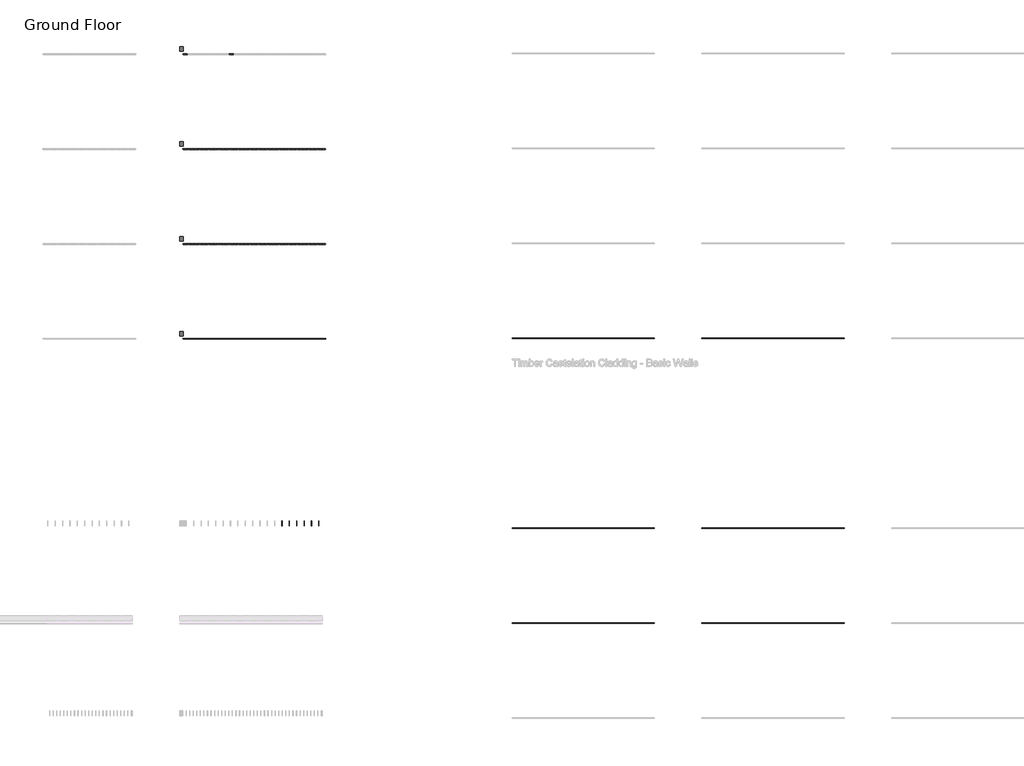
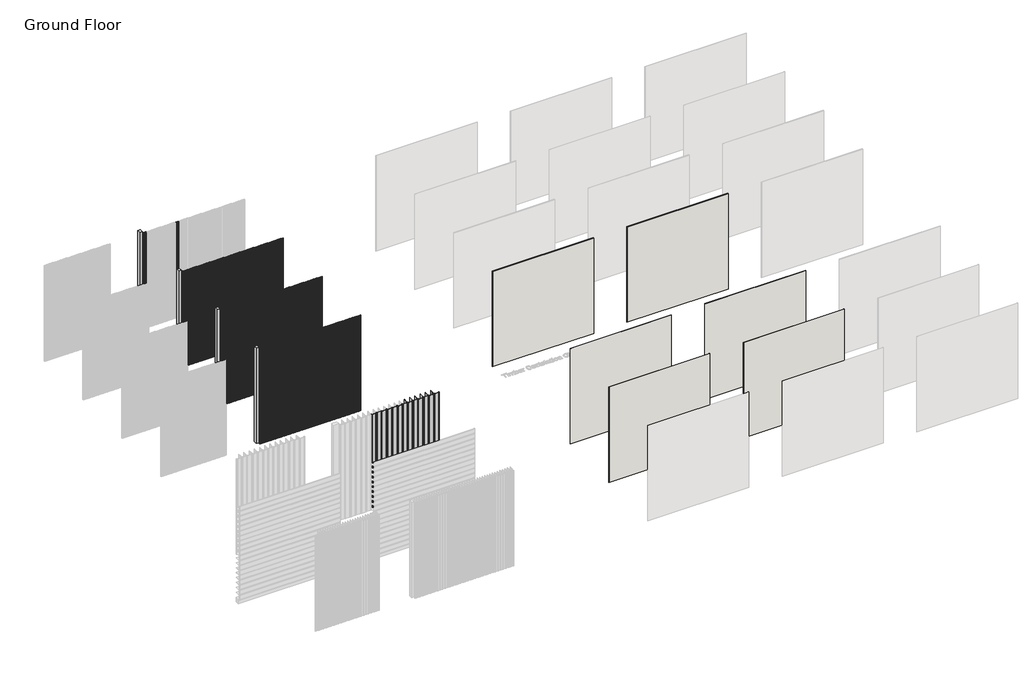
# One storey, part 44 of 350: 126 members, 10 plates, 6 walls.
"""IFC4 building model written with IfcOpenShell, lengths in millimetres."""

from ifc_helpers import new_model, si_unit, origin, origin_with_axes, place, context, project, spatial, polyline, outline, extrude, transform, mapped, element, save
from components import rectangular_mullion_a9feb706, rectangular_mullion_4aa68164, rectangular_mullion_14973cdb, rectangular_mullion_624eee80, rectangular_mullion_eca9a012, empty_system_panel_empty_27b459cb, empty_system_panel_empty_cbd4e42b

model = new_model("IFC4")

# Units and contexts
model_context = context("Model", 3, world=origin())
ifc_project = project(units=[si_unit("LENGTHUNIT", "METRE", prefix="MILLI")], contexts=[model_context])

# Site, building, storey
site = spatial("IfcSite", under=ifc_project)
building = spatial("IfcBuilding", under=site)
storey = spatial("IfcBuildingStorey", under=building, Name="Ground Floor", Elevation=0.0)

# Members
placement = place(None, origin())
rectangular_mullion_shape = rectangular_mullion_a9feb706(model_context)
element("IfcMember", 1, ObjectType="Rectangular Mullion : Cladding_Aluminium_Modinex_AluSelekta_Channel_155_WhiteOak", at=placement, inside=storey, context=model_context, shape_type="MappedRepresentation", body=[
    mapped(rectangular_mullion_shape, transform((50001.4361642, 18968.2978302, 0.0), x_axis=(1.0, 0.0, 0.0), y_axis=(0.0, -1.0, 0.0), z_axis=(0.0, 0.0, -1.0))),
])
element("IfcMember", 2, ObjectType="Rectangular Mullion : Cladding_Aluminium_Modinex_AluSelekta_Channel_155_WhiteOak", at=placement, inside=storey, context=model_context, shape_type="MappedRepresentation", body=[
    mapped(rectangular_mullion_shape, transform((50156.4361642, 18968.2978302, 0.0), x_axis=(1.0, 0.0, 0.0), y_axis=(0.0, -1.0, 0.0), z_axis=(0.0, 0.0, -1.0))),
])
element("IfcMember", 3, ObjectType="Rectangular Mullion : Cladding_Aluminium_Modinex_AluSelekta_Channel_155_WhiteOak", at=placement, inside=storey, context=model_context, shape_type="MappedRepresentation", body=[
    mapped(rectangular_mullion_shape, transform((50311.4361642, 18968.2978302, 0.0), x_axis=(1.0, 0.0, 0.0), y_axis=(0.0, -1.0, 0.0), z_axis=(0.0, 0.0, -1.0))),
])
element("IfcMember", 4, ObjectType="Rectangular Mullion : Cladding_Aluminium_Modinex_AluSelekta_Channel_155_WhiteOak", at=placement, inside=storey, context=model_context, shape_type="MappedRepresentation", body=[
    mapped(rectangular_mullion_shape, transform((50466.4361642, 18968.2978302, 0.0), x_axis=(1.0, 0.0, 0.0), y_axis=(0.0, -1.0, 0.0), z_axis=(0.0, 0.0, -1.0))),
])
element("IfcMember", 5, ObjectType="Rectangular Mullion : Cladding_Aluminium_Modinex_AluSelekta_Channel_155_WhiteOak", at=placement, inside=storey, context=model_context, shape_type="MappedRepresentation", body=[
    mapped(rectangular_mullion_shape, transform((50621.4361642, 18968.2978302, 0.0), x_axis=(1.0, 0.0, 0.0), y_axis=(0.0, -1.0, 0.0), z_axis=(0.0, 0.0, -1.0))),
])
element("IfcMember", 6, ObjectType="Rectangular Mullion : Cladding_Aluminium_Modinex_AluSelekta_Channel_155_WhiteOak", at=placement, inside=storey, context=model_context, shape_type="MappedRepresentation", body=[
    mapped(rectangular_mullion_shape, transform((50776.4361642, 18968.2978302, 0.0), x_axis=(1.0, 0.0, 0.0), y_axis=(0.0, -1.0, 0.0), z_axis=(0.0, 0.0, -1.0))),
])
element("IfcMember", 7, ObjectType="Rectangular Mullion : Cladding_Aluminium_Modinex_AluSelekta_Channel_155_WhiteOak", at=placement, inside=storey, context=model_context, shape_type="MappedRepresentation", body=[
    mapped(rectangular_mullion_shape, transform((50931.4361642, 18968.2978302, 0.0), x_axis=(1.0, 0.0, 0.0), y_axis=(0.0, -1.0, 0.0), z_axis=(0.0, 0.0, -1.0))),
])
element("IfcMember", 8, ObjectType="Rectangular Mullion : Cladding_Aluminium_Modinex_AluSelekta_Channel_155_WhiteOak", at=placement, inside=storey, context=model_context, shape_type="MappedRepresentation", body=[
    mapped(rectangular_mullion_shape, transform((51086.4361642, 18968.2978302, 0.0), x_axis=(1.0, 0.0, 0.0), y_axis=(0.0, -1.0, 0.0), z_axis=(0.0, 0.0, -1.0))),
])
element("IfcMember", 9, ObjectType="Rectangular Mullion : Cladding_Aluminium_Modinex_AluSelekta_Channel_155_WhiteOak", at=placement, inside=storey, context=model_context, shape_type="MappedRepresentation", body=[
    mapped(rectangular_mullion_shape, transform((51241.4361642, 18968.2978302, 0.0), x_axis=(1.0, 0.0, 0.0), y_axis=(0.0, -1.0, 0.0), z_axis=(0.0, 0.0, -1.0))),
])
element("IfcMember", 10, ObjectType="Rectangular Mullion : Cladding_Aluminium_Modinex_AluSelekta_Channel_155_WhiteOak", at=placement, inside=storey, context=model_context, shape_type="MappedRepresentation", body=[
    mapped(rectangular_mullion_shape, transform((51396.4361642, 18968.2978302, 0.0), x_axis=(1.0, 0.0, 0.0), y_axis=(0.0, -1.0, 0.0), z_axis=(0.0, 0.0, -1.0))),
])
element("IfcMember", 11, ObjectType="Rectangular Mullion : Cladding_Aluminium_Modinex_AluSelekta_Channel_155_WhiteOak", at=placement, inside=storey, context=model_context, shape_type="MappedRepresentation", body=[
    mapped(rectangular_mullion_shape, transform((51551.4361642, 18968.2978302, 0.0), x_axis=(1.0, 0.0, 0.0), y_axis=(0.0, -1.0, 0.0), z_axis=(0.0, 0.0, -1.0))),
])
element("IfcMember", 12, ObjectType="Rectangular Mullion : Cladding_Aluminium_Modinex_AluSelekta_Channel_155_WhiteOak", at=placement, inside=storey, context=model_context, shape_type="MappedRepresentation", body=[
    mapped(rectangular_mullion_shape, transform((51706.4361642, 18968.2978302, 0.0), x_axis=(1.0, 0.0, 0.0), y_axis=(0.0, -1.0, 0.0), z_axis=(0.0, 0.0, -1.0))),
])
element("IfcMember", 13, ObjectType="Rectangular Mullion : Cladding_Aluminium_Modinex_AluSelekta_Channel_155_WhiteOak", at=placement, inside=storey, context=model_context, shape_type="MappedRepresentation", body=[
    mapped(rectangular_mullion_shape, transform((51861.4361642, 18968.2978302, 0.0), x_axis=(1.0, 0.0, 0.0), y_axis=(0.0, -1.0, 0.0), z_axis=(0.0, 0.0, -1.0))),
])
rectangular_mullion_2_shape = rectangular_mullion_4aa68164(model_context)
element("IfcMember", 14, ObjectType="Rectangular Mullion : Cladding_Timber_Modinex_Castelation_81x12_WesternRedCedar", at=placement, inside=storey, context=model_context, shape_type="MappedRepresentation", body=[
    mapped(rectangular_mullion_2_shape, transform((50536.4361642, 22968.2978302, 0.0), x_axis=(1.0, 0.0, 0.0), y_axis=(0.0, -1.0, 0.0), z_axis=(0.0, 0.0, -1.0))),
])
element("IfcMember", 15, ObjectType="Rectangular Mullion : Cladding_Timber_Modinex_Castelation_81x12_WesternRedCedar", at=placement, inside=storey, context=model_context, shape_type="MappedRepresentation", body=[
    mapped(rectangular_mullion_2_shape, transform((50617.4361642, 22968.2978302, 0.0), x_axis=(1.0, 0.0, 0.0), y_axis=(0.0, -1.0, 0.0), z_axis=(0.0, 0.0, -1.0))),
])
element("IfcMember", 16, ObjectType="Rectangular Mullion : Cladding_Timber_Modinex_Castelation_81x12_WesternRedCedar", at=placement, inside=storey, context=model_context, shape_type="MappedRepresentation", body=[
    mapped(rectangular_mullion_2_shape, transform((50698.4361642, 22968.2978302, 0.0), x_axis=(1.0, 0.0, 0.0), y_axis=(0.0, -1.0, 0.0), z_axis=(0.0, 0.0, -1.0))),
])
element("IfcMember", 17, ObjectType="Rectangular Mullion : Cladding_Timber_Modinex_Castelation_81x12_WesternRedCedar", at=placement, inside=storey, context=model_context, shape_type="MappedRepresentation", body=[
    mapped(rectangular_mullion_2_shape, transform((50779.4361642, 22968.2978302, 0.0), x_axis=(1.0, 0.0, 0.0), y_axis=(0.0, -1.0, 0.0), z_axis=(0.0, 0.0, -1.0))),
])
element("IfcMember", 18, ObjectType="Rectangular Mullion : Cladding_Timber_Modinex_Castelation_81x12_WesternRedCedar", at=placement, inside=storey, context=model_context, shape_type="MappedRepresentation", body=[
    mapped(rectangular_mullion_2_shape, transform((50860.4361642, 22968.2978302, 0.0), x_axis=(1.0, 0.0, 0.0), y_axis=(0.0, -1.0, 0.0), z_axis=(0.0, 0.0, -1.0))),
])
element("IfcMember", 19, ObjectType="Rectangular Mullion : Cladding_Timber_Modinex_Castelation_81x12_WesternRedCedar", at=placement, inside=storey, context=model_context, shape_type="MappedRepresentation", body=[
    mapped(rectangular_mullion_2_shape, transform((50941.4361642, 22968.2978302, 0.0), x_axis=(1.0, 0.0, 0.0), y_axis=(0.0, -1.0, 0.0), z_axis=(0.0, 0.0, -1.0))),
])
element("IfcMember", 20, ObjectType="Rectangular Mullion : Cladding_Timber_Modinex_Castelation_81x12_WesternRedCedar", at=placement, inside=storey, context=model_context, shape_type="MappedRepresentation", body=[
    mapped(rectangular_mullion_2_shape, transform((51022.4361642, 22968.2978302, 0.0), x_axis=(1.0, 0.0, 0.0), y_axis=(0.0, -1.0, 0.0), z_axis=(0.0, 0.0, -1.0))),
])
element("IfcMember", 21, ObjectType="Rectangular Mullion : Cladding_Timber_Modinex_Castelation_81x12_WesternRedCedar", at=placement, inside=storey, context=model_context, shape_type="MappedRepresentation", body=[
    mapped(rectangular_mullion_2_shape, transform((51103.4361642, 22968.2978302, 0.0), x_axis=(1.0, 0.0, 0.0), y_axis=(0.0, -1.0, 0.0), z_axis=(0.0, 0.0, -1.0))),
])
element("IfcMember", 22, ObjectType="Rectangular Mullion : Cladding_Timber_Modinex_Castelation_81x12_WesternRedCedar", at=placement, inside=storey, context=model_context, shape_type="MappedRepresentation", body=[
    mapped(rectangular_mullion_2_shape, transform((51184.4361642, 22968.2978302, 0.0), x_axis=(1.0, 0.0, 0.0), y_axis=(0.0, -1.0, 0.0), z_axis=(0.0, 0.0, -1.0))),
])
element("IfcMember", 23, ObjectType="Rectangular Mullion : Cladding_Timber_Modinex_Castelation_81x12_WesternRedCedar", at=placement, inside=storey, context=model_context, shape_type="MappedRepresentation", body=[
    mapped(rectangular_mullion_2_shape, transform((51265.4361642, 22968.2978302, 0.0), x_axis=(1.0, 0.0, 0.0), y_axis=(0.0, -1.0, 0.0), z_axis=(0.0, 0.0, -1.0))),
])
element("IfcMember", 24, ObjectType="Rectangular Mullion : Cladding_Timber_Modinex_Castelation_81x12_WesternRedCedar", at=placement, inside=storey, context=model_context, shape_type="MappedRepresentation", body=[
    mapped(rectangular_mullion_2_shape, transform((51346.4361642, 22968.2978302, 0.0), x_axis=(1.0, 0.0, 0.0), y_axis=(0.0, -1.0, 0.0), z_axis=(0.0, 0.0, -1.0))),
])
element("IfcMember", 25, ObjectType="Rectangular Mullion : Cladding_Timber_Modinex_Castelation_81x12_WesternRedCedar", at=placement, inside=storey, context=model_context, shape_type="MappedRepresentation", body=[
    mapped(rectangular_mullion_2_shape, transform((51427.4361642, 22968.2978302, 0.0), x_axis=(1.0, 0.0, 0.0), y_axis=(0.0, -1.0, 0.0), z_axis=(0.0, 0.0, -1.0))),
])
element("IfcMember", 26, ObjectType="Rectangular Mullion : Cladding_Timber_Modinex_Castelation_81x12_WesternRedCedar", at=placement, inside=storey, context=model_context, shape_type="MappedRepresentation", body=[
    mapped(rectangular_mullion_2_shape, transform((51508.4361642, 22968.2978302, 0.0), x_axis=(1.0, 0.0, 0.0), y_axis=(0.0, -1.0, 0.0), z_axis=(0.0, 0.0, -1.0))),
])
element("IfcMember", 27, ObjectType="Rectangular Mullion : Cladding_Timber_Modinex_Castelation_81x12_WesternRedCedar", at=placement, inside=storey, context=model_context, shape_type="MappedRepresentation", body=[
    mapped(rectangular_mullion_2_shape, transform((51589.4361642, 22968.2978302, 0.0), x_axis=(1.0, 0.0, 0.0), y_axis=(0.0, -1.0, 0.0), z_axis=(0.0, 0.0, -1.0))),
])
element("IfcMember", 28, ObjectType="Rectangular Mullion : Cladding_Timber_Modinex_Castelation_81x12_WesternRedCedar", at=placement, inside=storey, context=model_context, shape_type="MappedRepresentation", body=[
    mapped(rectangular_mullion_2_shape, transform((51670.4361642, 22968.2978302, 0.0), x_axis=(1.0, 0.0, 0.0), y_axis=(0.0, -1.0, 0.0), z_axis=(0.0, 0.0, -1.0))),
])
element("IfcMember", 29, ObjectType="Rectangular Mullion : Cladding_Timber_Modinex_Castelation_81x12_WesternRedCedar", at=placement, inside=storey, context=model_context, shape_type="MappedRepresentation", body=[
    mapped(rectangular_mullion_2_shape, transform((51751.4361642, 22968.2978302, 0.0), x_axis=(1.0, 0.0, 0.0), y_axis=(0.0, -1.0, 0.0), z_axis=(0.0, 0.0, -1.0))),
])
element("IfcMember", 30, ObjectType="Rectangular Mullion : Cladding_Timber_Modinex_Castelation_81x12_WesternRedCedar", at=placement, inside=storey, context=model_context, shape_type="MappedRepresentation", body=[
    mapped(rectangular_mullion_2_shape, transform((51832.4361642, 22968.2978302, 0.0), x_axis=(1.0, 0.0, 0.0), y_axis=(0.0, -1.0, 0.0), z_axis=(0.0, 0.0, -1.0))),
])
element("IfcMember", 31, ObjectType="Rectangular Mullion : Cladding_Timber_Modinex_Castelation_81x12_WesternRedCedar", at=placement, inside=storey, context=model_context, shape_type="MappedRepresentation", body=[
    mapped(rectangular_mullion_2_shape, transform((51913.4361642, 22968.2978302, 0.0), x_axis=(1.0, 0.0, 0.0), y_axis=(0.0, -1.0, 0.0), z_axis=(0.0, 0.0, -1.0))),
])
element("IfcMember", 32, ObjectType="Rectangular Mullion : Cladding_Timber_Modinex_Castelation_81x12_WesternRedCedar", at=placement, inside=storey, context=model_context, shape_type="MappedRepresentation", body=[
    mapped(rectangular_mullion_2_shape, transform((50455.4361642, 22968.2978302, 0.0), x_axis=(1.0, 0.0, 0.0), y_axis=(0.0, -1.0, 0.0), z_axis=(0.0, 0.0, -1.0))),
])
element("IfcMember", 33, ObjectType="Rectangular Mullion : Cladding_Timber_Modinex_Castelation_81x12_WesternRedCedar", at=placement, inside=storey, context=model_context, shape_type="MappedRepresentation", body=[
    mapped(rectangular_mullion_2_shape, transform((50374.4361642, 22968.2978302, 0.0), x_axis=(1.0, 0.0, 0.0), y_axis=(0.0, -1.0, 0.0), z_axis=(0.0, 0.0, -1.0))),
])
element("IfcMember", 34, ObjectType="Rectangular Mullion : Cladding_Timber_Modinex_Castelation_81x12_WesternRedCedar", at=placement, inside=storey, context=model_context, shape_type="MappedRepresentation", body=[
    mapped(rectangular_mullion_2_shape, transform((50293.4361642, 22968.2978302, 0.0), x_axis=(1.0, 0.0, 0.0), y_axis=(0.0, -1.0, 0.0), z_axis=(0.0, 0.0, -1.0))),
])
element("IfcMember", 35, ObjectType="Rectangular Mullion : Cladding_Timber_Modinex_Castelation_81x12_WesternRedCedar", at=placement, inside=storey, context=model_context, shape_type="MappedRepresentation", body=[
    mapped(rectangular_mullion_2_shape, transform((50212.4361642, 22968.2978302, 0.0), x_axis=(1.0, 0.0, 0.0), y_axis=(0.0, -1.0, 0.0), z_axis=(0.0, 0.0, -1.0))),
])
element("IfcMember", 36, ObjectType="Rectangular Mullion : Cladding_Timber_Modinex_Castelation_81x12_WesternRedCedar", at=placement, inside=storey, context=model_context, shape_type="MappedRepresentation", body=[
    mapped(rectangular_mullion_2_shape, transform((50131.4361642, 22968.2978302, 0.0), x_axis=(1.0, 0.0, 0.0), y_axis=(0.0, -1.0, 0.0), z_axis=(0.0, 0.0, -1.0))),
])
element("IfcMember", 37, ObjectType="Rectangular Mullion : Cladding_Timber_Modinex_Castelation_81x12_WesternRedCedar", at=placement, inside=storey, context=model_context, shape_type="MappedRepresentation", body=[
    mapped(rectangular_mullion_2_shape, transform((50050.4361642, 22968.2978302, 0.0), x_axis=(1.0, 0.0, 0.0), y_axis=(0.0, -1.0, 0.0), z_axis=(0.0, 0.0, -1.0))),
])
element("IfcMember", 38, ObjectType="Rectangular Mullion : Cladding_Timber_Modinex_Castelation_81x12_WesternRedCedar", at=placement, inside=storey, context=model_context, shape_type="MappedRepresentation", body=[
    mapped(rectangular_mullion_2_shape, transform((49969.4361642, 22968.2978302, 0.0), x_axis=(1.0, 0.0, 0.0), y_axis=(0.0, -1.0, 0.0), z_axis=(0.0, 0.0, -1.0))),
])
element("IfcMember", 39, ObjectType="Rectangular Mullion : Cladding_Timber_Modinex_Castelation_81x12_WesternRedCedar", at=placement, inside=storey, context=model_context, shape_type="MappedRepresentation", body=[
    mapped(rectangular_mullion_2_shape, transform((49888.4361642, 22968.2978302, 0.0), x_axis=(1.0, 0.0, 0.0), y_axis=(0.0, -1.0, 0.0), z_axis=(0.0, 0.0, -1.0))),
])
element("IfcMember", 40, ObjectType="Rectangular Mullion : Cladding_Timber_Modinex_Castelation_81x12_WesternRedCedar", at=placement, inside=storey, context=model_context, shape_type="MappedRepresentation", body=[
    mapped(rectangular_mullion_2_shape, transform((49807.4361642, 22968.2978302, 0.0), x_axis=(1.0, 0.0, 0.0), y_axis=(0.0, -1.0, 0.0), z_axis=(0.0, 0.0, -1.0))),
])
element("IfcMember", 41, ObjectType="Rectangular Mullion : Cladding_Timber_Modinex_Castelation_81x12_WesternRedCedar", at=placement, inside=storey, context=model_context, shape_type="MappedRepresentation", body=[
    mapped(rectangular_mullion_2_shape, transform((49726.4361642, 22968.2978302, 0.0), x_axis=(1.0, 0.0, 0.0), y_axis=(0.0, -1.0, 0.0), z_axis=(0.0, 0.0, -1.0))),
])
element("IfcMember", 42, ObjectType="Rectangular Mullion : Cladding_Timber_Modinex_Castelation_81x12_WesternRedCedar", at=placement, inside=storey, context=model_context, shape_type="MappedRepresentation", body=[
    mapped(rectangular_mullion_2_shape, transform((49645.4361642, 22968.2978302, 0.0), x_axis=(1.0, 0.0, 0.0), y_axis=(0.0, -1.0, 0.0), z_axis=(0.0, 0.0, -1.0))),
])
element("IfcMember", 43, ObjectType="Rectangular Mullion : Cladding_Timber_Modinex_Castelation_81x12_WesternRedCedar", at=placement, inside=storey, context=model_context, shape_type="MappedRepresentation", body=[
    mapped(rectangular_mullion_2_shape, transform((49564.4361642, 22968.2978302, 0.0), x_axis=(1.0, 0.0, 0.0), y_axis=(0.0, -1.0, 0.0), z_axis=(0.0, 0.0, -1.0))),
])
element("IfcMember", 44, ObjectType="Rectangular Mullion : Cladding_Timber_Modinex_Castelation_81x12_WesternRedCedar", at=placement, inside=storey, context=model_context, shape_type="MappedRepresentation", body=[
    mapped(rectangular_mullion_2_shape, transform((49483.4361642, 22968.2978302, 0.0), x_axis=(1.0, 0.0, 0.0), y_axis=(0.0, -1.0, 0.0), z_axis=(0.0, 0.0, -1.0))),
])
element("IfcMember", 45, ObjectType="Rectangular Mullion : Cladding_Timber_Modinex_Castelation_81x12_WesternRedCedar", at=placement, inside=storey, context=model_context, shape_type="MappedRepresentation", body=[
    mapped(rectangular_mullion_2_shape, transform((49402.4361642, 22968.2978302, 0.0), x_axis=(1.0, 0.0, 0.0), y_axis=(0.0, -1.0, 0.0), z_axis=(0.0, 0.0, -1.0))),
])
element("IfcMember", 46, ObjectType="Rectangular Mullion : Cladding_Timber_Modinex_Castelation_81x12_WesternRedCedar", at=placement, inside=storey, context=model_context, shape_type="MappedRepresentation", body=[
    mapped(rectangular_mullion_2_shape, transform((49321.4361642, 22968.2978302, 0.0), x_axis=(1.0, 0.0, 0.0), y_axis=(0.0, -1.0, 0.0), z_axis=(0.0, 0.0, -1.0))),
])
element("IfcMember", 47, ObjectType="Rectangular Mullion : Cladding_Timber_Modinex_Castelation_81x12_WesternRedCedar", at=placement, inside=storey, context=model_context, shape_type="MappedRepresentation", body=[
    mapped(rectangular_mullion_2_shape, transform((49240.4361642, 22968.2978302, 0.0), x_axis=(1.0, 0.0, 0.0), y_axis=(0.0, -1.0, 0.0), z_axis=(0.0, 0.0, -1.0))),
])
element("IfcMember", 48, ObjectType="Rectangular Mullion : Cladding_Timber_Modinex_Castelation_81x12_WesternRedCedar", at=placement, inside=storey, context=model_context, shape_type="MappedRepresentation", body=[
    mapped(rectangular_mullion_2_shape, transform((49159.4361642, 22968.2978302, 0.0), x_axis=(1.0, 0.0, 0.0), y_axis=(0.0, -1.0, 0.0), z_axis=(0.0, 0.0, -1.0))),
])
element("IfcMember", 49, ObjectType="Rectangular Mullion : Cladding_Timber_Modinex_Castelation_81x12_WesternRedCedar", at=placement, inside=storey, context=model_context, shape_type="MappedRepresentation", body=[
    mapped(rectangular_mullion_2_shape, transform((49078.4361642, 22968.2978302, 0.0), x_axis=(1.0, 0.0, 0.0), y_axis=(0.0, -1.0, 0.0), z_axis=(0.0, 0.0, -1.0))),
])
element("IfcMember", 50, ObjectType="Rectangular Mullion : Cladding_Timber_Modinex_Castelation_81x12_WesternRedCedar", at=placement, inside=storey, context=model_context, shape_type="MappedRepresentation", body=[
    mapped(rectangular_mullion_2_shape, transform((48997.4361642, 22968.2978302, 0.0), x_axis=(1.0, 0.0, 0.0), y_axis=(0.0, -1.0, 0.0), z_axis=(0.0, 0.0, -1.0))),
])
rectangular_mullion_3_shape = rectangular_mullion_14973cdb(model_context)
element("IfcMember", 51, ObjectType="Rectangular Mullion : Cladding_Timber_Modinex_Castelation_81x18_WesternRedCedar", at=placement, inside=storey, context=model_context, shape_type="MappedRepresentation", body=[
    mapped(rectangular_mullion_3_shape, transform((50536.4361642, 24968.2978302, 0.0), x_axis=(1.0, 0.0, 0.0), y_axis=(0.0, -1.0, 0.0), z_axis=(0.0, 0.0, -1.0))),
])
element("IfcMember", 52, ObjectType="Rectangular Mullion : Cladding_Timber_Modinex_Castelation_81x18_WesternRedCedar", at=placement, inside=storey, context=model_context, shape_type="MappedRepresentation", body=[
    mapped(rectangular_mullion_3_shape, transform((50617.4361642, 24968.2978302, 0.0), x_axis=(1.0, 0.0, 0.0), y_axis=(0.0, -1.0, 0.0), z_axis=(0.0, 0.0, -1.0))),
])
element("IfcMember", 53, ObjectType="Rectangular Mullion : Cladding_Timber_Modinex_Castelation_81x18_WesternRedCedar", at=placement, inside=storey, context=model_context, shape_type="MappedRepresentation", body=[
    mapped(rectangular_mullion_3_shape, transform((50698.4361642, 24968.2978302, 0.0), x_axis=(1.0, 0.0, 0.0), y_axis=(0.0, -1.0, 0.0), z_axis=(0.0, 0.0, -1.0))),
])
element("IfcMember", 54, ObjectType="Rectangular Mullion : Cladding_Timber_Modinex_Castelation_81x18_WesternRedCedar", at=placement, inside=storey, context=model_context, shape_type="MappedRepresentation", body=[
    mapped(rectangular_mullion_3_shape, transform((50779.4361642, 24968.2978302, 0.0), x_axis=(1.0, 0.0, 0.0), y_axis=(0.0, -1.0, 0.0), z_axis=(0.0, 0.0, -1.0))),
])
element("IfcMember", 55, ObjectType="Rectangular Mullion : Cladding_Timber_Modinex_Castelation_81x18_WesternRedCedar", at=placement, inside=storey, context=model_context, shape_type="MappedRepresentation", body=[
    mapped(rectangular_mullion_3_shape, transform((50860.4361642, 24968.2978302, 0.0), x_axis=(1.0, 0.0, 0.0), y_axis=(0.0, -1.0, 0.0), z_axis=(0.0, 0.0, -1.0))),
])
element("IfcMember", 56, ObjectType="Rectangular Mullion : Cladding_Timber_Modinex_Castelation_81x18_WesternRedCedar", at=placement, inside=storey, context=model_context, shape_type="MappedRepresentation", body=[
    mapped(rectangular_mullion_3_shape, transform((50941.4361642, 24968.2978302, 0.0), x_axis=(1.0, 0.0, 0.0), y_axis=(0.0, -1.0, 0.0), z_axis=(0.0, 0.0, -1.0))),
])
element("IfcMember", 57, ObjectType="Rectangular Mullion : Cladding_Timber_Modinex_Castelation_81x18_WesternRedCedar", at=placement, inside=storey, context=model_context, shape_type="MappedRepresentation", body=[
    mapped(rectangular_mullion_3_shape, transform((51022.4361642, 24968.2978302, 0.0), x_axis=(1.0, 0.0, 0.0), y_axis=(0.0, -1.0, 0.0), z_axis=(0.0, 0.0, -1.0))),
])
element("IfcMember", 58, ObjectType="Rectangular Mullion : Cladding_Timber_Modinex_Castelation_81x18_WesternRedCedar", at=placement, inside=storey, context=model_context, shape_type="MappedRepresentation", body=[
    mapped(rectangular_mullion_3_shape, transform((51103.4361642, 24968.2978302, 0.0), x_axis=(1.0, 0.0, 0.0), y_axis=(0.0, -1.0, 0.0), z_axis=(0.0, 0.0, -1.0))),
])
element("IfcMember", 59, ObjectType="Rectangular Mullion : Cladding_Timber_Modinex_Castelation_81x18_WesternRedCedar", at=placement, inside=storey, context=model_context, shape_type="MappedRepresentation", body=[
    mapped(rectangular_mullion_3_shape, transform((51184.4361642, 24968.2978302, 0.0), x_axis=(1.0, 0.0, 0.0), y_axis=(0.0, -1.0, 0.0), z_axis=(0.0, 0.0, -1.0))),
])
element("IfcMember", 60, ObjectType="Rectangular Mullion : Cladding_Timber_Modinex_Castelation_81x18_WesternRedCedar", at=placement, inside=storey, context=model_context, shape_type="MappedRepresentation", body=[
    mapped(rectangular_mullion_3_shape, transform((51265.4361642, 24968.2978302, 0.0), x_axis=(1.0, 0.0, 0.0), y_axis=(0.0, -1.0, 0.0), z_axis=(0.0, 0.0, -1.0))),
])
element("IfcMember", 61, ObjectType="Rectangular Mullion : Cladding_Timber_Modinex_Castelation_81x18_WesternRedCedar", at=placement, inside=storey, context=model_context, shape_type="MappedRepresentation", body=[
    mapped(rectangular_mullion_3_shape, transform((51346.4361642, 24968.2978302, 0.0), x_axis=(1.0, 0.0, 0.0), y_axis=(0.0, -1.0, 0.0), z_axis=(0.0, 0.0, -1.0))),
])
element("IfcMember", 62, ObjectType="Rectangular Mullion : Cladding_Timber_Modinex_Castelation_81x18_WesternRedCedar", at=placement, inside=storey, context=model_context, shape_type="MappedRepresentation", body=[
    mapped(rectangular_mullion_3_shape, transform((51427.4361642, 24968.2978302, 0.0), x_axis=(1.0, 0.0, 0.0), y_axis=(0.0, -1.0, 0.0), z_axis=(0.0, 0.0, -1.0))),
])
element("IfcMember", 63, ObjectType="Rectangular Mullion : Cladding_Timber_Modinex_Castelation_81x18_WesternRedCedar", at=placement, inside=storey, context=model_context, shape_type="MappedRepresentation", body=[
    mapped(rectangular_mullion_3_shape, transform((51508.4361642, 24968.2978302, 0.0), x_axis=(1.0, 0.0, 0.0), y_axis=(0.0, -1.0, 0.0), z_axis=(0.0, 0.0, -1.0))),
])
element("IfcMember", 64, ObjectType="Rectangular Mullion : Cladding_Timber_Modinex_Castelation_81x18_WesternRedCedar", at=placement, inside=storey, context=model_context, shape_type="MappedRepresentation", body=[
    mapped(rectangular_mullion_3_shape, transform((51589.4361642, 24968.2978302, 0.0), x_axis=(1.0, 0.0, 0.0), y_axis=(0.0, -1.0, 0.0), z_axis=(0.0, 0.0, -1.0))),
])
element("IfcMember", 65, ObjectType="Rectangular Mullion : Cladding_Timber_Modinex_Castelation_81x18_WesternRedCedar", at=placement, inside=storey, context=model_context, shape_type="MappedRepresentation", body=[
    mapped(rectangular_mullion_3_shape, transform((51670.4361642, 24968.2978302, 0.0), x_axis=(1.0, 0.0, 0.0), y_axis=(0.0, -1.0, 0.0), z_axis=(0.0, 0.0, -1.0))),
])
element("IfcMember", 66, ObjectType="Rectangular Mullion : Cladding_Timber_Modinex_Castelation_81x18_WesternRedCedar", at=placement, inside=storey, context=model_context, shape_type="MappedRepresentation", body=[
    mapped(rectangular_mullion_3_shape, transform((51751.4361642, 24968.2978302, 0.0), x_axis=(1.0, 0.0, 0.0), y_axis=(0.0, -1.0, 0.0), z_axis=(0.0, 0.0, -1.0))),
])
element("IfcMember", 67, ObjectType="Rectangular Mullion : Cladding_Timber_Modinex_Castelation_81x18_WesternRedCedar", at=placement, inside=storey, context=model_context, shape_type="MappedRepresentation", body=[
    mapped(rectangular_mullion_3_shape, transform((51832.4361642, 24968.2978302, 0.0), x_axis=(1.0, 0.0, 0.0), y_axis=(0.0, -1.0, 0.0), z_axis=(0.0, 0.0, -1.0))),
])
element("IfcMember", 68, ObjectType="Rectangular Mullion : Cladding_Timber_Modinex_Castelation_81x18_WesternRedCedar", at=placement, inside=storey, context=model_context, shape_type="MappedRepresentation", body=[
    mapped(rectangular_mullion_3_shape, transform((51913.4361642, 24968.2978302, 0.0), x_axis=(1.0, 0.0, 0.0), y_axis=(0.0, -1.0, 0.0), z_axis=(0.0, 0.0, -1.0))),
])
element("IfcMember", 69, ObjectType="Rectangular Mullion : Cladding_Timber_Modinex_Castelation_81x18_WesternRedCedar", at=placement, inside=storey, context=model_context, shape_type="MappedRepresentation", body=[
    mapped(rectangular_mullion_3_shape, transform((50455.4361642, 24968.2978302, 0.0), x_axis=(1.0, 0.0, 0.0), y_axis=(0.0, -1.0, 0.0), z_axis=(0.0, 0.0, -1.0))),
])
element("IfcMember", 70, ObjectType="Rectangular Mullion : Cladding_Timber_Modinex_Castelation_81x18_WesternRedCedar", at=placement, inside=storey, context=model_context, shape_type="MappedRepresentation", body=[
    mapped(rectangular_mullion_3_shape, transform((50374.4361642, 24968.2978302, 0.0), x_axis=(1.0, 0.0, 0.0), y_axis=(0.0, -1.0, 0.0), z_axis=(0.0, 0.0, -1.0))),
])
element("IfcMember", 71, ObjectType="Rectangular Mullion : Cladding_Timber_Modinex_Castelation_81x18_WesternRedCedar", at=placement, inside=storey, context=model_context, shape_type="MappedRepresentation", body=[
    mapped(rectangular_mullion_3_shape, transform((50293.4361642, 24968.2978302, 0.0), x_axis=(1.0, 0.0, 0.0), y_axis=(0.0, -1.0, 0.0), z_axis=(0.0, 0.0, -1.0))),
])
element("IfcMember", 72, ObjectType="Rectangular Mullion : Cladding_Timber_Modinex_Castelation_81x18_WesternRedCedar", at=placement, inside=storey, context=model_context, shape_type="MappedRepresentation", body=[
    mapped(rectangular_mullion_3_shape, transform((50212.4361642, 24968.2978302, 0.0), x_axis=(1.0, 0.0, 0.0), y_axis=(0.0, -1.0, 0.0), z_axis=(0.0, 0.0, -1.0))),
])
element("IfcMember", 73, ObjectType="Rectangular Mullion : Cladding_Timber_Modinex_Castelation_81x18_WesternRedCedar", at=placement, inside=storey, context=model_context, shape_type="MappedRepresentation", body=[
    mapped(rectangular_mullion_3_shape, transform((50131.4361642, 24968.2978302, 0.0), x_axis=(1.0, 0.0, 0.0), y_axis=(0.0, -1.0, 0.0), z_axis=(0.0, 0.0, -1.0))),
])
element("IfcMember", 74, ObjectType="Rectangular Mullion : Cladding_Timber_Modinex_Castelation_81x18_WesternRedCedar", at=placement, inside=storey, context=model_context, shape_type="MappedRepresentation", body=[
    mapped(rectangular_mullion_3_shape, transform((50050.4361642, 24968.2978302, 0.0), x_axis=(1.0, 0.0, 0.0), y_axis=(0.0, -1.0, 0.0), z_axis=(0.0, 0.0, -1.0))),
])
element("IfcMember", 75, ObjectType="Rectangular Mullion : Cladding_Timber_Modinex_Castelation_81x18_WesternRedCedar", at=placement, inside=storey, context=model_context, shape_type="MappedRepresentation", body=[
    mapped(rectangular_mullion_3_shape, transform((49969.4361642, 24968.2978302, 0.0), x_axis=(1.0, 0.0, 0.0), y_axis=(0.0, -1.0, 0.0), z_axis=(0.0, 0.0, -1.0))),
])
element("IfcMember", 76, ObjectType="Rectangular Mullion : Cladding_Timber_Modinex_Castelation_81x18_WesternRedCedar", at=placement, inside=storey, context=model_context, shape_type="MappedRepresentation", body=[
    mapped(rectangular_mullion_3_shape, transform((49888.4361642, 24968.2978302, 0.0), x_axis=(1.0, 0.0, 0.0), y_axis=(0.0, -1.0, 0.0), z_axis=(0.0, 0.0, -1.0))),
])
element("IfcMember", 77, ObjectType="Rectangular Mullion : Cladding_Timber_Modinex_Castelation_81x18_WesternRedCedar", at=placement, inside=storey, context=model_context, shape_type="MappedRepresentation", body=[
    mapped(rectangular_mullion_3_shape, transform((49807.4361642, 24968.2978302, 0.0), x_axis=(1.0, 0.0, 0.0), y_axis=(0.0, -1.0, 0.0), z_axis=(0.0, 0.0, -1.0))),
])
element("IfcMember", 78, ObjectType="Rectangular Mullion : Cladding_Timber_Modinex_Castelation_81x18_WesternRedCedar", at=placement, inside=storey, context=model_context, shape_type="MappedRepresentation", body=[
    mapped(rectangular_mullion_3_shape, transform((49726.4361642, 24968.2978302, 0.0), x_axis=(1.0, 0.0, 0.0), y_axis=(0.0, -1.0, 0.0), z_axis=(0.0, 0.0, -1.0))),
])
element("IfcMember", 79, ObjectType="Rectangular Mullion : Cladding_Timber_Modinex_Castelation_81x18_WesternRedCedar", at=placement, inside=storey, context=model_context, shape_type="MappedRepresentation", body=[
    mapped(rectangular_mullion_3_shape, transform((49645.4361642, 24968.2978302, 0.0), x_axis=(1.0, 0.0, 0.0), y_axis=(0.0, -1.0, 0.0), z_axis=(0.0, 0.0, -1.0))),
])
element("IfcMember", 80, ObjectType="Rectangular Mullion : Cladding_Timber_Modinex_Castelation_81x18_WesternRedCedar", at=placement, inside=storey, context=model_context, shape_type="MappedRepresentation", body=[
    mapped(rectangular_mullion_3_shape, transform((49564.4361642, 24968.2978302, 0.0), x_axis=(1.0, 0.0, 0.0), y_axis=(0.0, -1.0, 0.0), z_axis=(0.0, 0.0, -1.0))),
])
element("IfcMember", 81, ObjectType="Rectangular Mullion : Cladding_Timber_Modinex_Castelation_81x18_WesternRedCedar", at=placement, inside=storey, context=model_context, shape_type="MappedRepresentation", body=[
    mapped(rectangular_mullion_3_shape, transform((49483.4361642, 24968.2978302, 0.0), x_axis=(1.0, 0.0, 0.0), y_axis=(0.0, -1.0, 0.0), z_axis=(0.0, 0.0, -1.0))),
])
element("IfcMember", 82, ObjectType="Rectangular Mullion : Cladding_Timber_Modinex_Castelation_81x18_WesternRedCedar", at=placement, inside=storey, context=model_context, shape_type="MappedRepresentation", body=[
    mapped(rectangular_mullion_3_shape, transform((49402.4361642, 24968.2978302, 0.0), x_axis=(1.0, 0.0, 0.0), y_axis=(0.0, -1.0, 0.0), z_axis=(0.0, 0.0, -1.0))),
])
element("IfcMember", 83, ObjectType="Rectangular Mullion : Cladding_Timber_Modinex_Castelation_81x18_WesternRedCedar", at=placement, inside=storey, context=model_context, shape_type="MappedRepresentation", body=[
    mapped(rectangular_mullion_3_shape, transform((49321.4361642, 24968.2978302, 0.0), x_axis=(1.0, 0.0, 0.0), y_axis=(0.0, -1.0, 0.0), z_axis=(0.0, 0.0, -1.0))),
])
element("IfcMember", 84, ObjectType="Rectangular Mullion : Cladding_Timber_Modinex_Castelation_81x18_WesternRedCedar", at=placement, inside=storey, context=model_context, shape_type="MappedRepresentation", body=[
    mapped(rectangular_mullion_3_shape, transform((49240.4361642, 24968.2978302, 0.0), x_axis=(1.0, 0.0, 0.0), y_axis=(0.0, -1.0, 0.0), z_axis=(0.0, 0.0, -1.0))),
])
element("IfcMember", 85, ObjectType="Rectangular Mullion : Cladding_Timber_Modinex_Castelation_81x18_WesternRedCedar", at=placement, inside=storey, context=model_context, shape_type="MappedRepresentation", body=[
    mapped(rectangular_mullion_3_shape, transform((49159.4361642, 24968.2978302, 0.0), x_axis=(1.0, 0.0, 0.0), y_axis=(0.0, -1.0, 0.0), z_axis=(0.0, 0.0, -1.0))),
])
element("IfcMember", 86, ObjectType="Rectangular Mullion : Cladding_Timber_Modinex_Castelation_81x18_WesternRedCedar", at=placement, inside=storey, context=model_context, shape_type="MappedRepresentation", body=[
    mapped(rectangular_mullion_3_shape, transform((49078.4361642, 24968.2978302, 0.0), x_axis=(1.0, 0.0, 0.0), y_axis=(0.0, -1.0, 0.0), z_axis=(0.0, 0.0, -1.0))),
])
element("IfcMember", 87, ObjectType="Rectangular Mullion : Cladding_Timber_Modinex_Castelation_81x18_WesternRedCedar", at=placement, inside=storey, context=model_context, shape_type="MappedRepresentation", body=[
    mapped(rectangular_mullion_3_shape, transform((48997.4361642, 24968.2978302, 0.0), x_axis=(1.0, 0.0, 0.0), y_axis=(0.0, -1.0, 0.0), z_axis=(0.0, 0.0, -1.0))),
])
rectangular_mullion_4_shape = rectangular_mullion_624eee80(model_context)
element("IfcMember", 88, ObjectType="Rectangular Mullion : Cladding_Timber_Modinex_Castelation_81x21_WesternRedCedar", at=placement, inside=storey, context=model_context, shape_type="MappedRepresentation", body=[
    mapped(rectangular_mullion_4_shape, transform((50536.4361642, 26968.2978302, 0.0), x_axis=(1.0, 0.0, 0.0), y_axis=(0.0, -1.0, 0.0), z_axis=(0.0, 0.0, -1.0))),
])
element("IfcMember", 89, ObjectType="Rectangular Mullion : Cladding_Timber_Modinex_Castelation_81x21_WesternRedCedar", at=placement, inside=storey, context=model_context, shape_type="MappedRepresentation", body=[
    mapped(rectangular_mullion_4_shape, transform((50617.4361642, 26968.2978302, 0.0), x_axis=(1.0, 0.0, 0.0), y_axis=(0.0, -1.0, 0.0), z_axis=(0.0, 0.0, -1.0))),
])
element("IfcMember", 90, ObjectType="Rectangular Mullion : Cladding_Timber_Modinex_Castelation_81x21_WesternRedCedar", at=placement, inside=storey, context=model_context, shape_type="MappedRepresentation", body=[
    mapped(rectangular_mullion_4_shape, transform((50698.4361642, 26968.2978302, 0.0), x_axis=(1.0, 0.0, 0.0), y_axis=(0.0, -1.0, 0.0), z_axis=(0.0, 0.0, -1.0))),
])
element("IfcMember", 91, ObjectType="Rectangular Mullion : Cladding_Timber_Modinex_Castelation_81x21_WesternRedCedar", at=placement, inside=storey, context=model_context, shape_type="MappedRepresentation", body=[
    mapped(rectangular_mullion_4_shape, transform((50779.4361642, 26968.2978302, 0.0), x_axis=(1.0, 0.0, 0.0), y_axis=(0.0, -1.0, 0.0), z_axis=(0.0, 0.0, -1.0))),
])
element("IfcMember", 92, ObjectType="Rectangular Mullion : Cladding_Timber_Modinex_Castelation_81x21_WesternRedCedar", at=placement, inside=storey, context=model_context, shape_type="MappedRepresentation", body=[
    mapped(rectangular_mullion_4_shape, transform((50860.4361642, 26968.2978302, 0.0), x_axis=(1.0, 0.0, 0.0), y_axis=(0.0, -1.0, 0.0), z_axis=(0.0, 0.0, -1.0))),
])
element("IfcMember", 93, ObjectType="Rectangular Mullion : Cladding_Timber_Modinex_Castelation_81x21_WesternRedCedar", at=placement, inside=storey, context=model_context, shape_type="MappedRepresentation", body=[
    mapped(rectangular_mullion_4_shape, transform((50941.4361642, 26968.2978302, 0.0), x_axis=(1.0, 0.0, 0.0), y_axis=(0.0, -1.0, 0.0), z_axis=(0.0, 0.0, -1.0))),
])
element("IfcMember", 94, ObjectType="Rectangular Mullion : Cladding_Timber_Modinex_Castelation_81x21_WesternRedCedar", at=placement, inside=storey, context=model_context, shape_type="MappedRepresentation", body=[
    mapped(rectangular_mullion_4_shape, transform((51022.4361642, 26968.2978302, 0.0), x_axis=(1.0, 0.0, 0.0), y_axis=(0.0, -1.0, 0.0), z_axis=(0.0, 0.0, -1.0))),
])
element("IfcMember", 95, ObjectType="Rectangular Mullion : Cladding_Timber_Modinex_Castelation_81x21_WesternRedCedar", at=placement, inside=storey, context=model_context, shape_type="MappedRepresentation", body=[
    mapped(rectangular_mullion_4_shape, transform((51103.4361642, 26968.2978302, 0.0), x_axis=(1.0, 0.0, 0.0), y_axis=(0.0, -1.0, 0.0), z_axis=(0.0, 0.0, -1.0))),
])
element("IfcMember", 96, ObjectType="Rectangular Mullion : Cladding_Timber_Modinex_Castelation_81x21_WesternRedCedar", at=placement, inside=storey, context=model_context, shape_type="MappedRepresentation", body=[
    mapped(rectangular_mullion_4_shape, transform((51184.4361642, 26968.2978302, 0.0), x_axis=(1.0, 0.0, 0.0), y_axis=(0.0, -1.0, 0.0), z_axis=(0.0, 0.0, -1.0))),
])
element("IfcMember", 97, ObjectType="Rectangular Mullion : Cladding_Timber_Modinex_Castelation_81x21_WesternRedCedar", at=placement, inside=storey, context=model_context, shape_type="MappedRepresentation", body=[
    mapped(rectangular_mullion_4_shape, transform((51265.4361642, 26968.2978302, 0.0), x_axis=(1.0, 0.0, 0.0), y_axis=(0.0, -1.0, 0.0), z_axis=(0.0, 0.0, -1.0))),
])
element("IfcMember", 98, ObjectType="Rectangular Mullion : Cladding_Timber_Modinex_Castelation_81x21_WesternRedCedar", at=placement, inside=storey, context=model_context, shape_type="MappedRepresentation", body=[
    mapped(rectangular_mullion_4_shape, transform((51346.4361642, 26968.2978302, 0.0), x_axis=(1.0, 0.0, 0.0), y_axis=(0.0, -1.0, 0.0), z_axis=(0.0, 0.0, -1.0))),
])
element("IfcMember", 99, ObjectType="Rectangular Mullion : Cladding_Timber_Modinex_Castelation_81x21_WesternRedCedar", at=placement, inside=storey, context=model_context, shape_type="MappedRepresentation", body=[
    mapped(rectangular_mullion_4_shape, transform((51427.4361642, 26968.2978302, 0.0), x_axis=(1.0, 0.0, 0.0), y_axis=(0.0, -1.0, 0.0), z_axis=(0.0, 0.0, -1.0))),
])
element("IfcMember", 100, ObjectType="Rectangular Mullion : Cladding_Timber_Modinex_Castelation_81x21_WesternRedCedar", at=placement, inside=storey, context=model_context, shape_type="MappedRepresentation", body=[
    mapped(rectangular_mullion_4_shape, transform((51508.4361642, 26968.2978302, 0.0), x_axis=(1.0, 0.0, 0.0), y_axis=(0.0, -1.0, 0.0), z_axis=(0.0, 0.0, -1.0))),
])
element("IfcMember", 101, ObjectType="Rectangular Mullion : Cladding_Timber_Modinex_Castelation_81x21_WesternRedCedar", at=placement, inside=storey, context=model_context, shape_type="MappedRepresentation", body=[
    mapped(rectangular_mullion_4_shape, transform((51589.4361642, 26968.2978302, 0.0), x_axis=(1.0, 0.0, 0.0), y_axis=(0.0, -1.0, 0.0), z_axis=(0.0, 0.0, -1.0))),
])
element("IfcMember", 102, ObjectType="Rectangular Mullion : Cladding_Timber_Modinex_Castelation_81x21_WesternRedCedar", at=placement, inside=storey, context=model_context, shape_type="MappedRepresentation", body=[
    mapped(rectangular_mullion_4_shape, transform((51670.4361642, 26968.2978302, 0.0), x_axis=(1.0, 0.0, 0.0), y_axis=(0.0, -1.0, 0.0), z_axis=(0.0, 0.0, -1.0))),
])
element("IfcMember", 103, ObjectType="Rectangular Mullion : Cladding_Timber_Modinex_Castelation_81x21_WesternRedCedar", at=placement, inside=storey, context=model_context, shape_type="MappedRepresentation", body=[
    mapped(rectangular_mullion_4_shape, transform((51751.4361642, 26968.2978302, 0.0), x_axis=(1.0, 0.0, 0.0), y_axis=(0.0, -1.0, 0.0), z_axis=(0.0, 0.0, -1.0))),
])
element("IfcMember", 104, ObjectType="Rectangular Mullion : Cladding_Timber_Modinex_Castelation_81x21_WesternRedCedar", at=placement, inside=storey, context=model_context, shape_type="MappedRepresentation", body=[
    mapped(rectangular_mullion_4_shape, transform((51832.4361642, 26968.2978302, 0.0), x_axis=(1.0, 0.0, 0.0), y_axis=(0.0, -1.0, 0.0), z_axis=(0.0, 0.0, -1.0))),
])
element("IfcMember", 105, ObjectType="Rectangular Mullion : Cladding_Timber_Modinex_Castelation_81x21_WesternRedCedar", at=placement, inside=storey, context=model_context, shape_type="MappedRepresentation", body=[
    mapped(rectangular_mullion_4_shape, transform((51913.4361642, 26968.2978302, 0.0), x_axis=(1.0, 0.0, 0.0), y_axis=(0.0, -1.0, 0.0), z_axis=(0.0, 0.0, -1.0))),
])
element("IfcMember", 106, ObjectType="Rectangular Mullion : Cladding_Timber_Modinex_Castelation_81x21_WesternRedCedar", at=placement, inside=storey, context=model_context, shape_type="MappedRepresentation", body=[
    mapped(rectangular_mullion_4_shape, transform((50455.4361642, 26968.2978302, 0.0), x_axis=(1.0, 0.0, 0.0), y_axis=(0.0, -1.0, 0.0), z_axis=(0.0, 0.0, -1.0))),
])
element("IfcMember", 107, ObjectType="Rectangular Mullion : Cladding_Timber_Modinex_Castelation_81x21_WesternRedCedar", at=placement, inside=storey, context=model_context, shape_type="MappedRepresentation", body=[
    mapped(rectangular_mullion_4_shape, transform((50374.4361642, 26968.2978302, 0.0), x_axis=(1.0, 0.0, 0.0), y_axis=(0.0, -1.0, 0.0), z_axis=(0.0, 0.0, -1.0))),
])
element("IfcMember", 108, ObjectType="Rectangular Mullion : Cladding_Timber_Modinex_Castelation_81x21_WesternRedCedar", at=placement, inside=storey, context=model_context, shape_type="MappedRepresentation", body=[
    mapped(rectangular_mullion_4_shape, transform((50293.4361642, 26968.2978302, 0.0), x_axis=(1.0, 0.0, 0.0), y_axis=(0.0, -1.0, 0.0), z_axis=(0.0, 0.0, -1.0))),
])
element("IfcMember", 109, ObjectType="Rectangular Mullion : Cladding_Timber_Modinex_Castelation_81x21_WesternRedCedar", at=placement, inside=storey, context=model_context, shape_type="MappedRepresentation", body=[
    mapped(rectangular_mullion_4_shape, transform((50212.4361642, 26968.2978302, 0.0), x_axis=(1.0, 0.0, 0.0), y_axis=(0.0, -1.0, 0.0), z_axis=(0.0, 0.0, -1.0))),
])
element("IfcMember", 110, ObjectType="Rectangular Mullion : Cladding_Timber_Modinex_Castelation_81x21_WesternRedCedar", at=placement, inside=storey, context=model_context, shape_type="MappedRepresentation", body=[
    mapped(rectangular_mullion_4_shape, transform((50131.4361642, 26968.2978302, 0.0), x_axis=(1.0, 0.0, 0.0), y_axis=(0.0, -1.0, 0.0), z_axis=(0.0, 0.0, -1.0))),
])
element("IfcMember", 111, ObjectType="Rectangular Mullion : Cladding_Timber_Modinex_Castelation_81x21_WesternRedCedar", at=placement, inside=storey, context=model_context, shape_type="MappedRepresentation", body=[
    mapped(rectangular_mullion_4_shape, transform((50050.4361642, 26968.2978302, 0.0), x_axis=(1.0, 0.0, 0.0), y_axis=(0.0, -1.0, 0.0), z_axis=(0.0, 0.0, -1.0))),
])
element("IfcMember", 112, ObjectType="Rectangular Mullion : Cladding_Timber_Modinex_Castelation_81x21_WesternRedCedar", at=placement, inside=storey, context=model_context, shape_type="MappedRepresentation", body=[
    mapped(rectangular_mullion_4_shape, transform((49969.4361642, 26968.2978302, 0.0), x_axis=(1.0, 0.0, 0.0), y_axis=(0.0, -1.0, 0.0), z_axis=(0.0, 0.0, -1.0))),
])
element("IfcMember", 113, ObjectType="Rectangular Mullion : Cladding_Timber_Modinex_Castelation_81x21_WesternRedCedar", at=placement, inside=storey, context=model_context, shape_type="MappedRepresentation", body=[
    mapped(rectangular_mullion_4_shape, transform((49888.4361642, 26968.2978302, 0.0), x_axis=(1.0, 0.0, 0.0), y_axis=(0.0, -1.0, 0.0), z_axis=(0.0, 0.0, -1.0))),
])
element("IfcMember", 114, ObjectType="Rectangular Mullion : Cladding_Timber_Modinex_Castelation_81x21_WesternRedCedar", at=placement, inside=storey, context=model_context, shape_type="MappedRepresentation", body=[
    mapped(rectangular_mullion_4_shape, transform((49807.4361642, 26968.2978302, 0.0), x_axis=(1.0, 0.0, 0.0), y_axis=(0.0, -1.0, 0.0), z_axis=(0.0, 0.0, -1.0))),
])
element("IfcMember", 115, ObjectType="Rectangular Mullion : Cladding_Timber_Modinex_Castelation_81x21_WesternRedCedar", at=placement, inside=storey, context=model_context, shape_type="MappedRepresentation", body=[
    mapped(rectangular_mullion_4_shape, transform((49726.4361642, 26968.2978302, 0.0), x_axis=(1.0, 0.0, 0.0), y_axis=(0.0, -1.0, 0.0), z_axis=(0.0, 0.0, -1.0))),
])
element("IfcMember", 116, ObjectType="Rectangular Mullion : Cladding_Timber_Modinex_Castelation_81x21_WesternRedCedar", at=placement, inside=storey, context=model_context, shape_type="MappedRepresentation", body=[
    mapped(rectangular_mullion_4_shape, transform((49645.4361642, 26968.2978302, 0.0), x_axis=(1.0, 0.0, 0.0), y_axis=(0.0, -1.0, 0.0), z_axis=(0.0, 0.0, -1.0))),
])
element("IfcMember", 117, ObjectType="Rectangular Mullion : Cladding_Timber_Modinex_Castelation_81x21_WesternRedCedar", at=placement, inside=storey, context=model_context, shape_type="MappedRepresentation", body=[
    mapped(rectangular_mullion_4_shape, transform((49564.4361642, 26968.2978302, 0.0), x_axis=(1.0, 0.0, 0.0), y_axis=(0.0, -1.0, 0.0), z_axis=(0.0, 0.0, -1.0))),
])
element("IfcMember", 118, ObjectType="Rectangular Mullion : Cladding_Timber_Modinex_Castelation_81x21_WesternRedCedar", at=placement, inside=storey, context=model_context, shape_type="MappedRepresentation", body=[
    mapped(rectangular_mullion_4_shape, transform((49483.4361642, 26968.2978302, 0.0), x_axis=(1.0, 0.0, 0.0), y_axis=(0.0, -1.0, 0.0), z_axis=(0.0, 0.0, -1.0))),
])
element("IfcMember", 119, ObjectType="Rectangular Mullion : Cladding_Timber_Modinex_Castelation_81x21_WesternRedCedar", at=placement, inside=storey, context=model_context, shape_type="MappedRepresentation", body=[
    mapped(rectangular_mullion_4_shape, transform((49402.4361642, 26968.2978302, 0.0), x_axis=(1.0, 0.0, 0.0), y_axis=(0.0, -1.0, 0.0), z_axis=(0.0, 0.0, -1.0))),
])
element("IfcMember", 120, ObjectType="Rectangular Mullion : Cladding_Timber_Modinex_Castelation_81x21_WesternRedCedar", at=placement, inside=storey, context=model_context, shape_type="MappedRepresentation", body=[
    mapped(rectangular_mullion_4_shape, transform((49321.4361642, 26968.2978302, 0.0), x_axis=(1.0, 0.0, 0.0), y_axis=(0.0, -1.0, 0.0), z_axis=(0.0, 0.0, -1.0))),
])
element("IfcMember", 121, ObjectType="Rectangular Mullion : Cladding_Timber_Modinex_Castelation_81x21_WesternRedCedar", at=placement, inside=storey, context=model_context, shape_type="MappedRepresentation", body=[
    mapped(rectangular_mullion_4_shape, transform((49240.4361642, 26968.2978302, 0.0), x_axis=(1.0, 0.0, 0.0), y_axis=(0.0, -1.0, 0.0), z_axis=(0.0, 0.0, -1.0))),
])
element("IfcMember", 122, ObjectType="Rectangular Mullion : Cladding_Timber_Modinex_Castelation_81x21_WesternRedCedar", at=placement, inside=storey, context=model_context, shape_type="MappedRepresentation", body=[
    mapped(rectangular_mullion_4_shape, transform((49159.4361642, 26968.2978302, 0.0), x_axis=(1.0, 0.0, 0.0), y_axis=(0.0, -1.0, 0.0), z_axis=(0.0, 0.0, -1.0))),
])
element("IfcMember", 123, ObjectType="Rectangular Mullion : Cladding_Timber_Modinex_Castelation_81x21_WesternRedCedar", at=placement, inside=storey, context=model_context, shape_type="MappedRepresentation", body=[
    mapped(rectangular_mullion_4_shape, transform((49078.4361642, 26968.2978302, 0.0), x_axis=(1.0, 0.0, 0.0), y_axis=(0.0, -1.0, 0.0), z_axis=(0.0, 0.0, -1.0))),
])
element("IfcMember", 124, ObjectType="Rectangular Mullion : Cladding_Timber_Modinex_Castelation_81x21_WesternRedCedar", at=placement, inside=storey, context=model_context, shape_type="MappedRepresentation", body=[
    mapped(rectangular_mullion_4_shape, transform((48997.4361642, 26968.2978302, 0.0), x_axis=(1.0, 0.0, 0.0), y_axis=(0.0, -1.0, 0.0), z_axis=(0.0, 0.0, -1.0))),
])
rectangular_mullion_5_shape = rectangular_mullion_eca9a012(model_context)
element("IfcMember", 125, ObjectType="Rectangular Mullion : Cladding_Timber_Modinex_Castelation_81x26_WesternRedCedar", at=placement, inside=storey, context=model_context, shape_type="MappedRepresentation", body=[
    mapped(rectangular_mullion_5_shape, transform((49969.4361642, 28968.2978302, 0.0), x_axis=(1.0, 0.0, 0.0), y_axis=(0.0, -1.0, 0.0), z_axis=(0.0, 0.0, -1.0))),
])
element("IfcMember", 126, ObjectType="Rectangular Mullion : Cladding_Timber_Modinex_Castelation_81x26_WesternRedCedar", at=placement, inside=storey, context=model_context, shape_type="MappedRepresentation", body=[
    mapped(rectangular_mullion_5_shape, transform((48997.4361642, 28968.2978302, 0.0), x_axis=(1.0, 0.0, 0.0), y_axis=(0.0, -1.0, 0.0), z_axis=(0.0, 0.0, -1.0))),
])

# Plates
empty_system_panel_empty_shape = empty_system_panel_empty_27b459cb(model_context)
element("IfcPlate", 127, ObjectType="Empty System Panel : Empty", at=placement, inside=storey, context=model_context, shape_type="MappedRepresentation", body=[
    mapped(empty_system_panel_empty_shape, transform((51074.9529326, 18968.2978302, 0.0), x_axis=(1.0, 0.0, 0.0), y_axis=(0.0, 1.0, 0.0), z_axis=(0.0, 0.0, 1.0))),
])
element("IfcPlate", 128, ObjectType="Empty System Panel : Empty", at=placement, inside=storey, context=model_context, shape_type="MappedRepresentation", body=[
    mapped(empty_system_panel_empty_shape, transform((51229.9529326, 18968.2978302, 0.0), x_axis=(1.0, 0.0, 0.0), y_axis=(0.0, 1.0, 0.0), z_axis=(0.0, 0.0, 1.0))),
])
element("IfcPlate", 129, ObjectType="Empty System Panel : Empty", at=placement, inside=storey, context=model_context, shape_type="MappedRepresentation", body=[
    mapped(empty_system_panel_empty_shape, transform((51384.9529326, 18968.2978302, 0.0), x_axis=(1.0, 0.0, 0.0), y_axis=(0.0, 1.0, 0.0), z_axis=(0.0, 0.0, 1.0))),
])
element("IfcPlate", 130, ObjectType="Empty System Panel : Empty", at=placement, inside=storey, context=model_context, shape_type="MappedRepresentation", body=[
    mapped(empty_system_panel_empty_shape, transform((51539.9529326, 18968.2978302, 0.0), x_axis=(1.0, 0.0, 0.0), y_axis=(0.0, 1.0, 0.0), z_axis=(0.0, 0.0, 1.0))),
])
element("IfcPlate", 131, ObjectType="Empty System Panel : Empty", at=placement, inside=storey, context=model_context, shape_type="MappedRepresentation", body=[
    mapped(empty_system_panel_empty_shape, transform((51694.9529326, 18968.2978302, 0.0), x_axis=(1.0, 0.0, 0.0), y_axis=(0.0, 1.0, 0.0), z_axis=(0.0, 0.0, 1.0))),
])
element("IfcPlate", 132, ObjectType="Empty System Panel : Empty", at=placement, inside=storey, context=model_context, shape_type="MappedRepresentation", body=[
    mapped(empty_system_panel_empty_shape, transform((51849.9529326, 18968.2978302, 0.0), x_axis=(1.0, 0.0, 0.0), y_axis=(0.0, 1.0, 0.0), z_axis=(0.0, 0.0, 1.0))),
])
empty_system_panel_empty_2_shape = empty_system_panel_empty_cbd4e42b(model_context)
element("IfcPlate", 133, ObjectType="Empty System Panel : Empty", at=placement, inside=storey, context=model_context, shape_type="MappedRepresentation", body=[
    mapped(empty_system_panel_empty_2_shape, transform((48954.4602384, 22968.2978302, 0.0), x_axis=(1.0, 0.0, 0.0), y_axis=(0.0, 1.0, 0.0), z_axis=(0.0, 0.0, 1.0))),
])
element("IfcPlate", 134, ObjectType="Empty System Panel : Empty", at=placement, inside=storey, context=model_context, shape_type="MappedRepresentation", body=[
    mapped(empty_system_panel_empty_2_shape, transform((48954.4602384, 24968.2978302, 0.0), x_axis=(1.0, 0.0, 0.0), y_axis=(0.0, 1.0, 0.0), z_axis=(0.0, 0.0, 1.0))),
])
element("IfcPlate", 135, ObjectType="Empty System Panel : Empty", at=placement, inside=storey, context=model_context, shape_type="MappedRepresentation", body=[
    mapped(empty_system_panel_empty_2_shape, transform((48954.4602384, 26968.2978302, 0.0), x_axis=(1.0, 0.0, 0.0), y_axis=(0.0, 1.0, 0.0), z_axis=(0.0, 0.0, 1.0))),
])
element("IfcPlate", 136, ObjectType="Empty System Panel : Empty", at=placement, inside=storey, context=model_context, shape_type="MappedRepresentation", body=[
    mapped(empty_system_panel_empty_2_shape, transform((48954.4602384, 28968.2978302, 0.0), x_axis=(1.0, 0.0, 0.0), y_axis=(0.0, 1.0, 0.0), z_axis=(0.0, 0.0, 1.0))),
])

# Walls
element("IfcWall", 137, ObjectType="Cladding_Aluminium_Modinex_AluSelekta_Channel_155_Horizontal_AfricanEbony", at=placement, inside=storey, context=model_context, shape_type="SweptSolid", body=[
    extrude(outline(polyline([(58916.4361639, 16963.2978302), (55916.4361639, 16963.2978302), (55916.4361639, 16973.2978302), (58916.4361639, 16973.2978302), (58916.4361639, 16963.2978302)])), origin_with_axes(), (0.0, 0.0, 1.0), 3000.0),
])
element("IfcWall", 138, ObjectType="Cladding_Aluminium_Modinex_AluSelekta_Channel_155_Horizontal_Cedar", at=placement, inside=storey, context=model_context, shape_type="SweptSolid", body=[
    extrude(outline(polyline([(62916.4361639, 16963.2978302), (59916.4361639, 16963.2978302), (59916.4361639, 16973.2978302), (62916.4361639, 16973.2978302), (62916.4361639, 16963.2978302)])), origin_with_axes(), (0.0, 0.0, 1.0), 3000.0),
])
element("IfcWall", 139, ObjectType="Cladding_Aluminium_Modinex_AluSelekta_Channel_155_Vertical_AfricanEbony", at=placement, inside=storey, context=model_context, shape_type="SweptSolid", body=[
    extrude(outline(polyline([(58916.4361639, 18963.2978302), (55916.4361639, 18963.2978302), (55916.4361639, 18973.2978302), (58916.4361639, 18973.2978302), (58916.4361639, 18963.2978302)])), origin_with_axes(), (0.0, 0.0, 1.0), 3000.0),
])
element("IfcWall", 140, ObjectType="Cladding_Aluminium_Modinex_AluSelekta_Channel_155_Vertical_Cedar", at=placement, inside=storey, context=model_context, shape_type="SweptSolid", body=[
    extrude(outline(polyline([(62916.4361639, 18963.2978302), (59916.4361639, 18963.2978302), (59916.4361639, 18973.2978302), (62916.4361639, 18973.2978302), (62916.4361639, 18963.2978302)])), origin_with_axes(), (0.0, 0.0, 1.0), 3000.0),
])
element("IfcWall", 141, ObjectType="Cladding_Timber_Modinex_Castelation_81x12_AlaskanYellowCedar", at=placement, inside=storey, context=model_context, shape_type="SweptSolid", body=[
    extrude(outline(polyline([(58916.4361639, 22963.2978302), (55916.4361639, 22963.2978302), (55916.4361639, 22973.2978302), (58916.4361639, 22973.2978302), (58916.4361639, 22963.2978302)])), origin_with_axes(), (0.0, 0.0, 1.0), 3000.0),
])
element("IfcWall", 142, ObjectType="Cladding_Timber_Modinex_Castelation_81x12_Blackbutt", at=placement, inside=storey, context=model_context, shape_type="SweptSolid", body=[
    extrude(outline(polyline([(62916.4361639, 22963.2978302), (59916.4361639, 22963.2978302), (59916.4361639, 22973.2978302), (62916.4361639, 22973.2978302), (62916.4361639, 22963.2978302)])), origin_with_axes(), (0.0, 0.0, 1.0), 3000.0),
])

save(model, "model.ifc")
